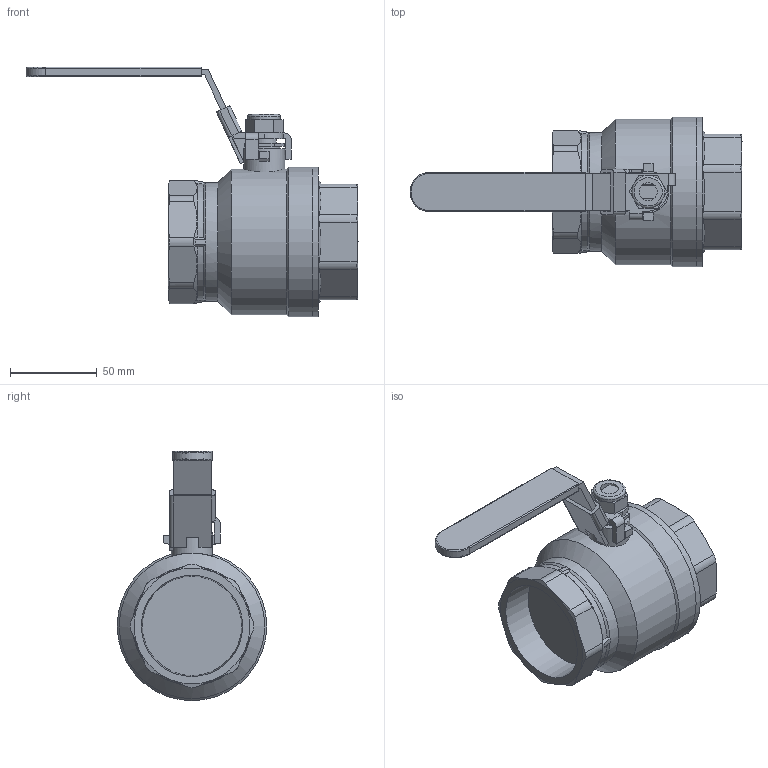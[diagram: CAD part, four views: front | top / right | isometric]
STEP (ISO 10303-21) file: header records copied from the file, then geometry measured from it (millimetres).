
FILE_DESCRIPTION((' '),'2;1');
FILE_NAME('N:\Technical Support\Private\Jomar Valve CAD\Ball Valves\Brass\JF-100T[G]\2.0_JF-100T-LH_100-108LHFusionCopy.stp.step','2017-08-10T15:52:05',(' '),(' '),' ','ACIS',' ');
FILE_SCHEMA(('CONFIG_CONTROL_DESIGN'));
Length unit declared in the file: inch
Products named in the file (9): N:\Technical Support\Private\Jomar Valve CAD\Ball Valves\Brass\JF-100T[G]\2.0_JF-100T-LH_100-108LHFusionCopy.stp.step; Body1; Body2; Body3; Body4; Body5; Body6; Body7; Body8
Assembly tree (8 placements, depth 2):
  N:\Technical Support\Private\Jomar Valve CAD\Ball Valves\Brass\JF-100T[G]\2.0_JF-100T-LH_100-108LHFusionCopy.stp.step
    Body1
    Body2
    Body3
    Body4
    Body5
    Body6
    Body7
    Body8
Bounding box: 191.19 x 86.11 x 143.6 mm (x, y, z)
Volume: 450685.8 mm3; surface area: 76780 mm2
Topology: 8 solids, 8 shells, 221 faces, 546 edges, 348 vertices
Faces by surface type: plane 115, cylinder 52, cone 36, bspline 15, torus 3
Full cylindrical faces by diameter (mm): 10.414 x1, 13.97 x1, 14.732 x1, 18.161 x1, 18.796 x1, 23.749 x1, 68.453 x1, 83.82 x1, 86.106 x2
Entity records: 7957 total; most frequent: CARTESIAN_POINT 1888, ORIENTED_EDGE 1044, DIRECTION 934, EDGE_CURVE 522, AXIS2_PLACEMENT_3D 342, VERTEX_POINT 340, EDGE_LOOP 252, VECTOR 250
